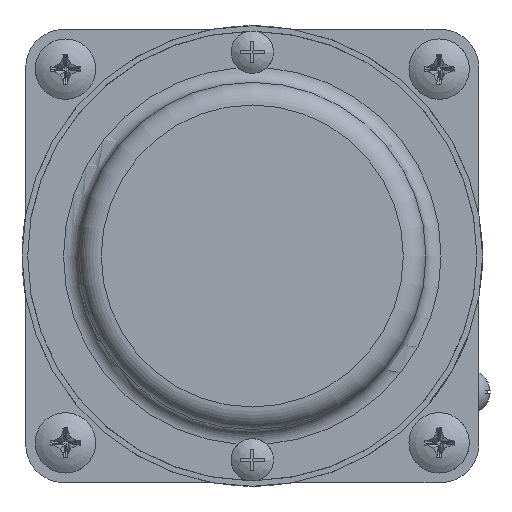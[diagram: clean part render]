
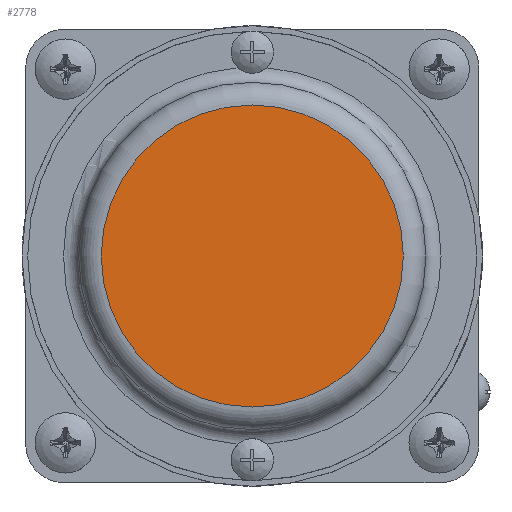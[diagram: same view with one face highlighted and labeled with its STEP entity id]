
A CAD part, left-side view. The second image highlights one B-rep face of the part: STEP entity #2778.
In plain terms, the highlighted planar face has unit normal (-1, 0, 0).
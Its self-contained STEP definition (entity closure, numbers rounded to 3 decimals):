
#897=FACE_OUTER_BOUND('',#3670,.T.);
#2375=PLANE('',#7933);
#2778=ADVANCED_FACE('',(#897),#2375,.T.);
#3670=EDGE_LOOP('',(#5249));
#5249=ORIENTED_EDGE('',*,*,#6781,.T.);
#5961=VERTEX_POINT('',#12787);
#6781=EDGE_CURVE('',#5961,#5961,#7141,.T.);
#7141=CIRCLE('',#7932,20.);
#7932=AXIS2_PLACEMENT_3D('',#12786,#9273,#9274);
#7933=AXIS2_PLACEMENT_3D('',#12788,#9275,#9276);
#9273=DIRECTION('',(-1.,0.,0.));
#9274=DIRECTION('',(0.,-1.,0.));
#9275=DIRECTION('',(-1.,0.,0.));
#9276=DIRECTION('',(0.,-1.,0.));
#12786=CARTESIAN_POINT('',(-86.,0.,0.));
#12787=CARTESIAN_POINT('',(-86.,-20.,0.));
#12788=CARTESIAN_POINT('',(-86.,0.,0.));
